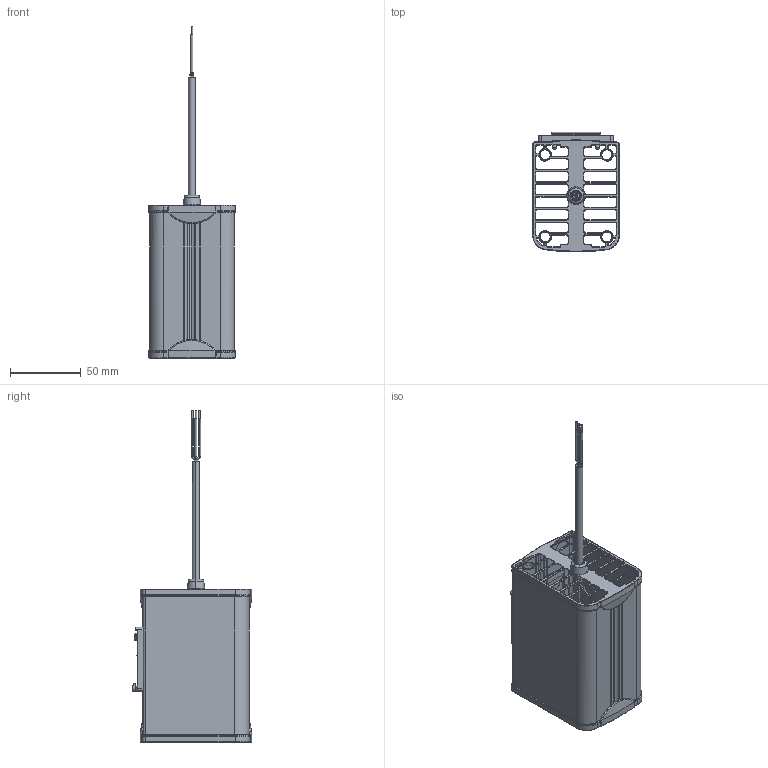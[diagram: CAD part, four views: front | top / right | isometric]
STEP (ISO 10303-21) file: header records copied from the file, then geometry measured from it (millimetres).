
FILE_DESCRIPTION(/* description */ (''),/* implementation_level */ '2;1');
FILE_NAME(/* name */ 'HWM045',/* time_stamp */ '2018-04-17T10:19:39+02:00',/* author */ (''),/* organization */ (''),/* preprocessor_version */ 'ST-DEVELOPER v14',/* originating_system */ '',/* authorisation */ '');
FILE_SCHEMA (('CONFIG_CONTROL_DESIGN'));
Length unit declared in the file: millimetre
Products named in the file (5): Document; (#92566) Rivetto; (#78235) Molla CLIP; (#85379) Base plastica CLIP; (#28001) Cavo Alimentazione tripolare_Configurazione deformata (cavo i
nstallato)
Assembly tree (5 placements, depth 2):
  Document
    (#92566) Rivetto  x2
    (#78235) Molla CLIP
    (#85379) Base plastica CLIP
    (#28001) Cavo Alimentazione tripolare_Configurazione deformata (cavo i
nstallato)
Bounding box: 61.57 x 84.86 x 235 mm (x, y, z)
Volume: 9713.8 mm3; surface area: 46402.5 mm2
Topology: 5 solids, 8 shells, 1155 faces, 3161 edges, 2018 vertices
Faces by surface type: bspline 980, plane 175
Entity records: 69869 total; most frequent: CARTESIAN_POINT 53351, ORIENTED_EDGE 5638, EDGE_CURVE 3129, VERTEX_POINT 2004, EDGE_LOOP 1216, B_SPLINE_CURVE_WITH_KNOTS 1148, ADVANCED_FACE 1142, FACE_OUTER_BOUND 1142
